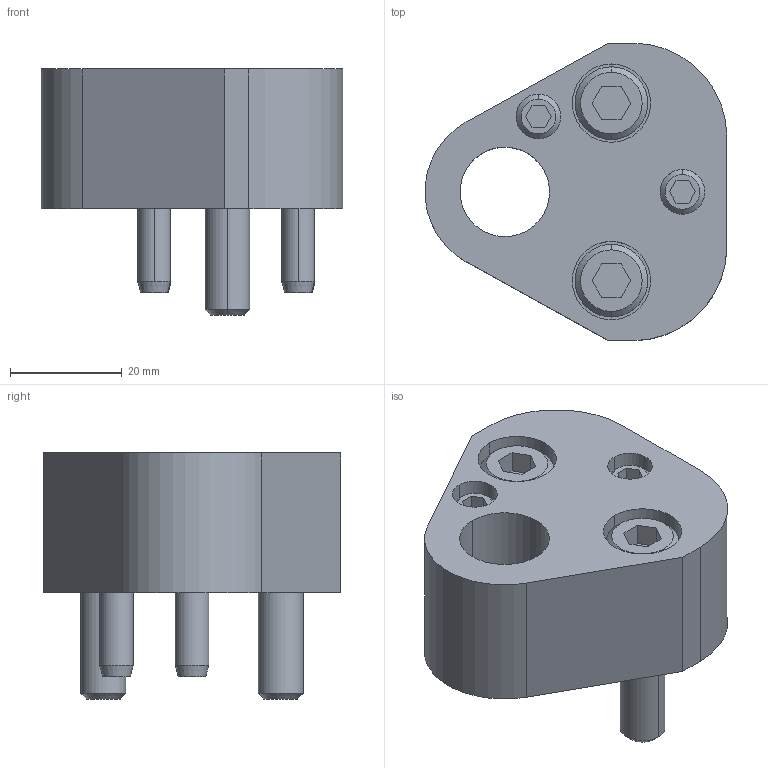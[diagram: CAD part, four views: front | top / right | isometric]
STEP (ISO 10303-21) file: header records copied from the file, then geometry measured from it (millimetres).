
FILE_DESCRIPTION(/* description */ (''),/* implementation_level */ '2;1');
FILE_NAME(/* name */ '3d_25crnar16_03134_r00.stp',/* time_stamp */ '2011-01-10T14:17:52+09:00',/* author */ ('MISUMI'),/* organization */ (''),/* preprocessor_version */ 'ST-DEVELOPER v11',/* originating_system */ 'UGS - NX 5.0',/* authorisation */ '');
FILE_SCHEMA (('CONFIG_CONTROL_DESIGN'));
Length unit declared in the file: millimetre
Products named in the file (1): 3d_25crnar16_03134_r00
Bounding box: 53.95 x 53.2 x 44 mm (x, y, z)
Volume: 48371.5 mm3; surface area: 16977.5 mm2
Topology: 7 solids, 7 shells, 135 faces, 294 edges, 188 vertices
Faces by surface type: plane 60, cylinder 49, cone 26
Entity records: 3836 total; most frequent: DIRECTION 684, CARTESIAN_POINT 672, ORIENTED_EDGE 588, EDGE_CURVE 294, AXIS2_PLACEMENT_3D 260, VERTEX_POINT 188, LINE 164, VECTOR 164
